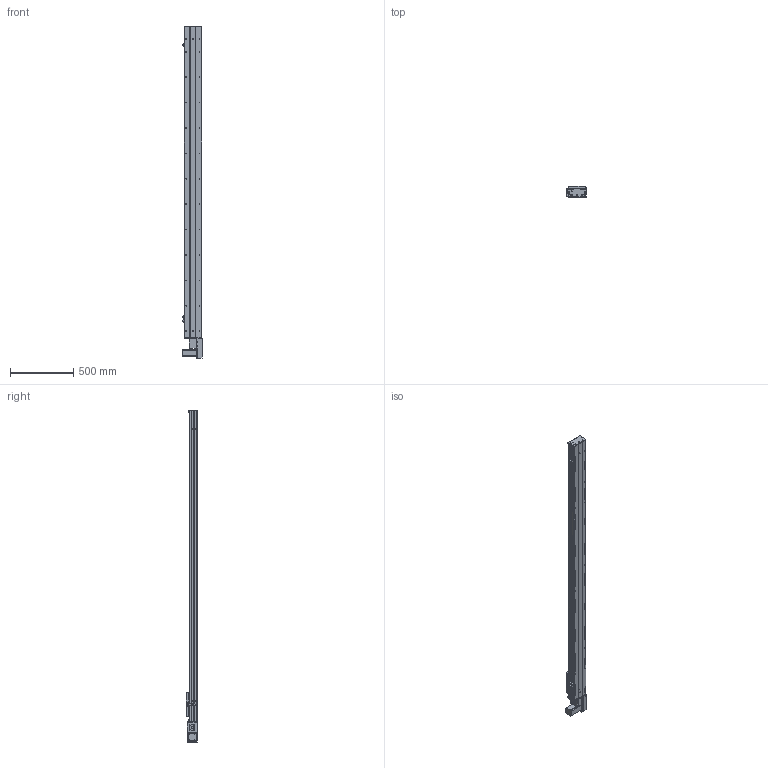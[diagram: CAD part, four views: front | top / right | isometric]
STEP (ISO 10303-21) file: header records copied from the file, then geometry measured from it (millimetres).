
FILE_DESCRIPTION (( 'STEP AP203' ), '1' );
FILE_NAME ('Y135CB-D90-S2150-BL-P400W.STEP', '2020-02-18T01:33:24', ( '微软用户' ), ( '微软中国' ), 'SwSTEP 2.0', 'SolidWorks 2017', '' );
FILE_SCHEMA (( 'CONFIG_CONTROL_DESIGN' ));
Length unit declared in the file: millimetre
Products named in the file (18): Y100-135俋离換覜ん--; Y俋欶BR----; Y135CB-耜裔; Y135C-陔俋离換覜結え-; 0B-埴倛裔啣; 135CB---遴掛极.-; 5C--俋欶; 0B-源倛裔啣; 35CB---喘謫眊楊擘啣; C-雄赽釱--; 0B-萇儂楊擘啣; Y10B--々湍喘謫眊--666; Y135CB-D90-S2150-BL-P400W; san松下电机400不带刹车----; Y10B-耜蚾蟀諉啣----; 5CB --掛极耜裔啣-; C-詩湍揤踡え-陔; 135CB--詩湍-CE
Assembly tree (21 placements, depth 2):
  Y135CB-D90-S2150-BL-P400W
    Y135CB-耜裔
    135CB---遴掛极.-
    35CB---喘謫眊楊擘啣
    Y10B--々湍喘謫眊--666
    Y10B-耜蚾蟀諉啣----
    Y俋欶BR----
    0B-埴倛裔啣
    0B-源倛裔啣
    0B-萇儂楊擘啣
    san松下电机400不带刹车----
    5CB --掛极耜裔啣-  x2
    C-詩湍揤踡え-陔  x2
    135CB--詩湍-CE
    Y100-135俋离換覜ん--  x3
    Y135C-陔俋离換覜結え-
    5C--俋欶
    C-雄赽釱--
Bounding box: 157.5 x 91 x 2614.5 mm (x, y, z)
Volume: 7373693.3 mm3; surface area: 2916252 mm2
Topology: 21 solids, 21 shells, 969 faces, 2635 edges, 1746 vertices
Faces by surface type: cylinder 495, plane 458, cone 16
Entity records: 30553 total; most frequent: CARTESIAN_POINT 5076, DIRECTION 5075, ORIENTED_EDGE 4746, EDGE_CURVE 2373, AXIS2_PLACEMENT_3D 1857, VERTEX_POINT 1574, VECTOR 1361, LINE 1361
